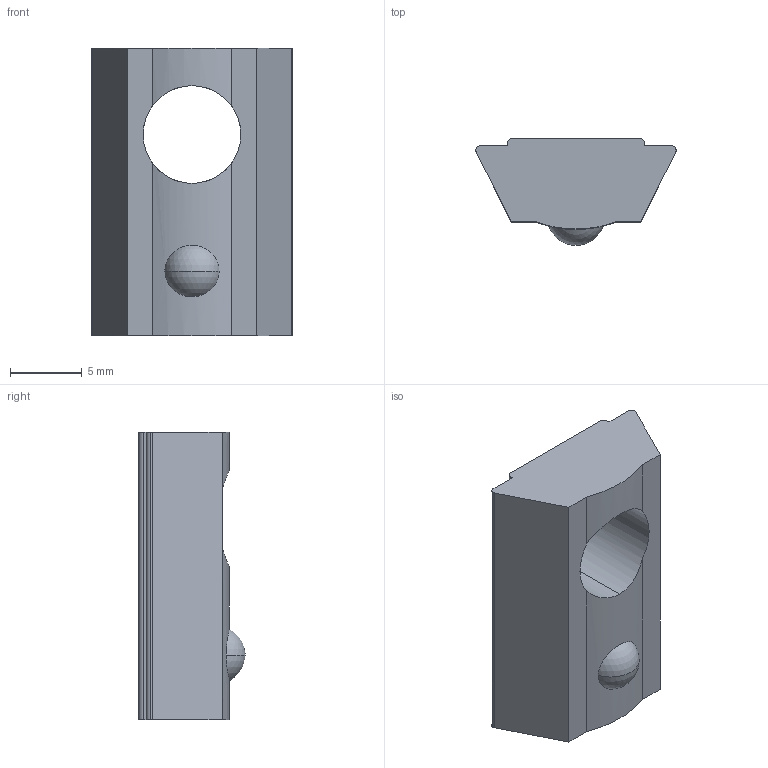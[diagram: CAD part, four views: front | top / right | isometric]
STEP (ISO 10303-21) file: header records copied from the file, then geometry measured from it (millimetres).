
FILE_DESCRIPTION (( 'STEP AP203' ), '1' );
FILE_NAME ('LIMA-LHNR8-104545.STEP', '2018-03-15T12:19:42', ( '' ), ( '' ), 'SwSTEP 2.0', 'SolidWorks 2013', '' );
FILE_SCHEMA (( 'CONFIG_CONTROL_DESIGN' ));
Length unit declared in the file: millimetre
Products named in the file (1): LIMA-LHNR8-104545
Bounding box: 13.93 x 7.4 x 20 mm (x, y, z)
Volume: 1148.4 mm3; surface area: 901.5 mm2
Topology: 1 solids, 1 shells, 22 faces, 61 edges, 41 vertices
Faces by surface type: plane 11, cylinder 9, sphere 2
Entity records: 872 total; most frequent: CARTESIAN_POINT 217, ORIENTED_EDGE 122, DIRECTION 119, EDGE_CURVE 61, AXIS2_PLACEMENT_3D 41, VERTEX_POINT 41, VECTOR 37, LINE 37
